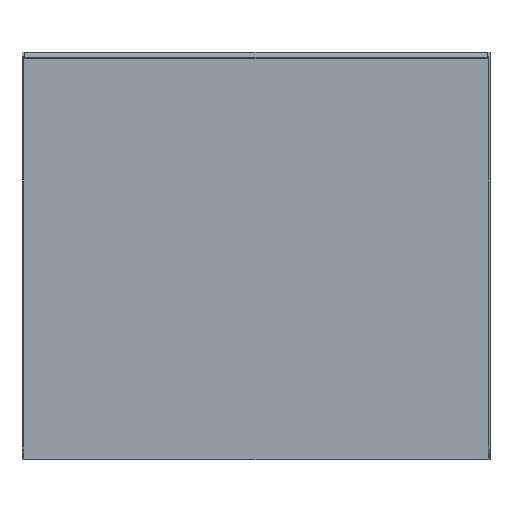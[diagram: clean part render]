
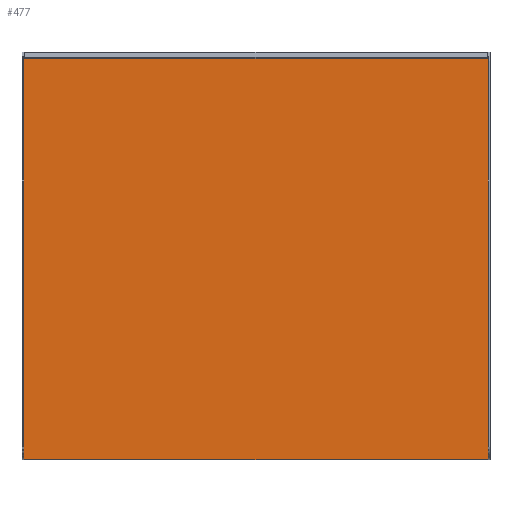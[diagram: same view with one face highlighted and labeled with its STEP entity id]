
A CAD part, front view. The second image highlights one B-rep face of the part: STEP entity #477.
In plain terms, the highlighted planar face has unit normal (0, -1, 0).
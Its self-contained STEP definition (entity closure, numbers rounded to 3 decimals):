
#16 = DIRECTION ( 'NONE',  ( 1., 0., 0. ) ) ;
#93 = DIRECTION ( 'NONE',  ( 0., 0., -1. ) ) ;
#112 = DIRECTION ( 'NONE',  ( 0., 0., 1. ) ) ;
#154 = CARTESIAN_POINT ( 'NONE',  ( -347., 0., 397. ) ) ;
#352 = VERTEX_POINT ( 'NONE', #778 ) ;
#370 = DIRECTION ( 'NONE',  ( 0., -1., 0. ) ) ;
#385 = CARTESIAN_POINT ( 'NONE',  ( 347., 0., 397. ) ) ;
#390 = ORIENTED_EDGE ( 'NONE', *, *, #414, .F. ) ;
#397 = LINE ( 'NONE', #154, #1474 ) ;
#414 = EDGE_CURVE ( 'NONE', #1557, #513, #397, .T. ) ;
#446 = VECTOR ( 'NONE', #721, 1000. ) ;
#477 = ADVANCED_FACE ( 'NONE', ( #1571 ), #543, .T. ) ;
#513 = VERTEX_POINT ( 'NONE', #905 ) ;
#543 = PLANE ( 'NONE',  #1450 ) ;
#562 = CARTESIAN_POINT ( 'NONE',  ( -347., 0., 397. ) ) ;
#583 = CARTESIAN_POINT ( 'NONE',  ( -347., 0., -397. ) ) ;
#608 = VERTEX_POINT ( 'NONE', #1477 ) ;
#662 = ORIENTED_EDGE ( 'NONE', *, *, #805, .F. ) ;
#721 = DIRECTION ( 'NONE',  ( -1., 0., 0. ) ) ;
#778 = CARTESIAN_POINT ( 'NONE',  ( 347., 0., 397. ) ) ;
#805 = EDGE_CURVE ( 'NONE', #352, #608, #1703, .T. ) ;
#852 = CARTESIAN_POINT ( 'NONE',  ( -347., 0., -397. ) ) ;
#896 = CARTESIAN_POINT ( 'NONE',  ( 0., 0., 0. ) ) ;
#905 = CARTESIAN_POINT ( 'NONE',  ( -347., 0., 397. ) ) ;
#929 = ORIENTED_EDGE ( 'NONE', *, *, #1391, .F. ) ;
#972 = LINE ( 'NONE', #852, #446 ) ;
#993 = VECTOR ( 'NONE', #16, 1000. ) ;
#1161 = VECTOR ( 'NONE', #93, 1000. ) ;
#1212 = LINE ( 'NONE', #562, #993 ) ;
#1346 = EDGE_LOOP ( 'NONE', ( #662, #929, #390, #1648 ) ) ;
#1391 = EDGE_CURVE ( 'NONE', #513, #352, #1212, .T. ) ;
#1450 = AXIS2_PLACEMENT_3D ( 'NONE', #896, #370, #1696 ) ;
#1474 = VECTOR ( 'NONE', #112, 1000. ) ;
#1477 = CARTESIAN_POINT ( 'NONE',  ( 347., 0., -397. ) ) ;
#1497 = EDGE_CURVE ( 'NONE', #608, #1557, #972, .T. ) ;
#1557 = VERTEX_POINT ( 'NONE', #583 ) ;
#1571 = FACE_OUTER_BOUND ( 'NONE', #1346, .T. ) ;
#1648 = ORIENTED_EDGE ( 'NONE', *, *, #1497, .F. ) ;
#1696 = DIRECTION ( 'NONE',  ( 0., 0., -1. ) ) ;
#1703 = LINE ( 'NONE', #385, #1161 ) ;
